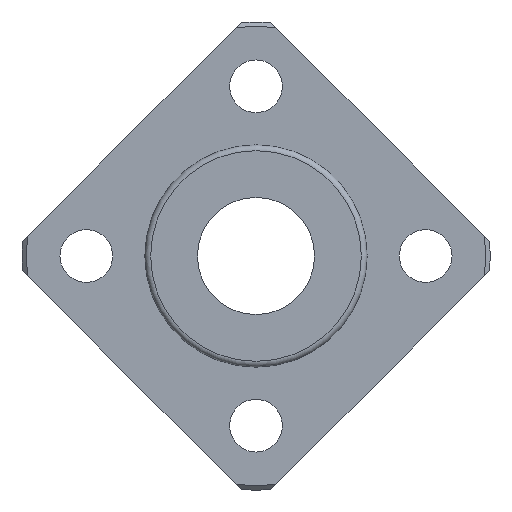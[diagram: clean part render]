
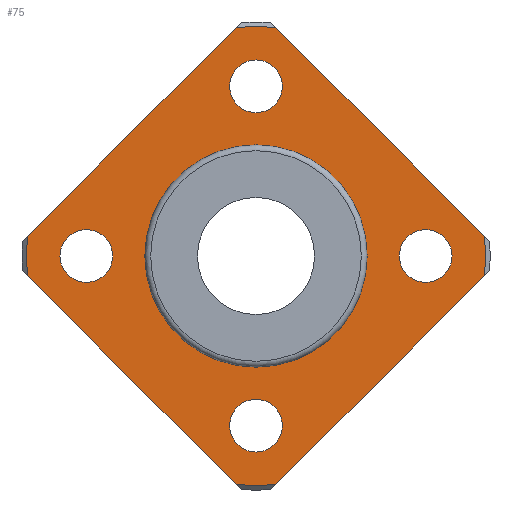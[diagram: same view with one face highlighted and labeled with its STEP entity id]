
A CAD part, left-side view. The second image highlights one B-rep face of the part: STEP entity #75.
In plain terms, the highlighted planar face has unit normal (-1, 0, 0).
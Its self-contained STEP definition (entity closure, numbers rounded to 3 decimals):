
#75=ADVANCED_FACE('',(#112,#113,#114,#115,#116,#117),#118,.T.);
#112=FACE_OUTER_BOUND('',#212,.T.);
#113=FACE_BOUND('',#213,.T.);
#114=FACE_BOUND('',#214,.T.);
#115=FACE_BOUND('',#215,.T.);
#116=FACE_BOUND('',#216,.T.);
#117=FACE_BOUND('',#217,.T.);
#118=PLANE('',#218);
#212=EDGE_LOOP('',(#312,#313,#314,#315,#316,#317,#318,#319));
#213=EDGE_LOOP('',(#320));
#214=EDGE_LOOP('',(#321));
#215=EDGE_LOOP('',(#322));
#216=EDGE_LOOP('',(#323));
#217=EDGE_LOOP('',(#324));
#218=AXIS2_PLACEMENT_3D('',#325,#326,#327);
#312=ORIENTED_EDGE('',*,*,#562,.T.);
#313=ORIENTED_EDGE('',*,*,#563,.T.);
#314=ORIENTED_EDGE('',*,*,#564,.T.);
#315=ORIENTED_EDGE('',*,*,#565,.T.);
#316=ORIENTED_EDGE('',*,*,#566,.T.);
#317=ORIENTED_EDGE('',*,*,#567,.T.);
#318=ORIENTED_EDGE('',*,*,#568,.T.);
#319=ORIENTED_EDGE('',*,*,#569,.T.);
#320=ORIENTED_EDGE('',*,*,#570,.F.);
#321=ORIENTED_EDGE('',*,*,#571,.T.);
#322=ORIENTED_EDGE('',*,*,#572,.T.);
#323=ORIENTED_EDGE('',*,*,#573,.T.);
#324=ORIENTED_EDGE('',*,*,#574,.T.);
#325=CARTESIAN_POINT('',(-6.0,14.425,0.0));
#326=DIRECTION('',(-1.0,0.0,0.));
#327=DIRECTION('',(0.,0.0,1.0));
#562=EDGE_CURVE('',#633,#634,#635,.T.);
#563=EDGE_CURVE('',#634,#636,#637,.T.);
#564=EDGE_CURVE('',#636,#638,#639,.T.);
#565=EDGE_CURVE('',#638,#640,#641,.T.);
#566=EDGE_CURVE('',#640,#642,#643,.T.);
#567=EDGE_CURVE('',#642,#644,#645,.T.);
#568=EDGE_CURVE('',#644,#646,#647,.T.);
#569=EDGE_CURVE('',#646,#633,#648,.T.);
#570=EDGE_CURVE('',#649,#649,#650,.T.);
#571=EDGE_CURVE('',#651,#651,#652,.T.);
#572=EDGE_CURVE('',#653,#653,#654,.T.);
#573=EDGE_CURVE('',#655,#655,#656,.T.);
#574=EDGE_CURVE('',#657,#657,#658,.T.);
#633=VERTEX_POINT('',#759);
#634=VERTEX_POINT('',#760);
#635=LINE('',#761,#762);
#636=VERTEX_POINT('',#763);
#637=CIRCLE('',#764,19.6);
#638=VERTEX_POINT('',#765);
#639=LINE('',#766,#767);
#640=VERTEX_POINT('',#768);
#641=CIRCLE('',#769,19.6);
#642=VERTEX_POINT('',#770);
#643=LINE('',#771,#772);
#644=VERTEX_POINT('',#773);
#645=CIRCLE('',#774,19.6);
#646=VERTEX_POINT('',#775);
#647=LINE('',#776,#777);
#648=CIRCLE('',#778,19.6);
#649=VERTEX_POINT('',#779);
#650=CIRCLE('',#780,9.25);
#651=VERTEX_POINT('',#781);
#652=CIRCLE('',#782,2.25);
#653=VERTEX_POINT('',#783);
#654=CIRCLE('',#784,2.25);
#655=VERTEX_POINT('',#785);
#656=CIRCLE('',#786,2.25);
#657=VERTEX_POINT('',#787);
#658=CIRCLE('',#788,2.25);
#759=CARTESIAN_POINT('',(-6.,-1.686,-19.527));
#760=CARTESIAN_POINT('',(-6.0,-19.527,-1.686));
#761=CARTESIAN_POINT('',(-6.0,-11.677,-9.536));
#762=VECTOR('',#1045,1.0);
#763=CARTESIAN_POINT('',(-6.0,-19.527,1.686));
#764=AXIS2_PLACEMENT_3D('',#1046,#1047,#1048);
#765=CARTESIAN_POINT('',(-6.0,-1.686,19.527));
#766=CARTESIAN_POINT('',(-6.0,-11.677,9.536));
#767=VECTOR('',#1049,1.0);
#768=CARTESIAN_POINT('',(-6.0,1.686,19.527));
#769=AXIS2_PLACEMENT_3D('',#1050,#1051,#1052);
#770=CARTESIAN_POINT('',(-6.0,19.527,1.686));
#771=CARTESIAN_POINT('',(-6.0,18.89,2.323));
#772=VECTOR('',#1053,1.0);
#773=CARTESIAN_POINT('',(-6.0,19.527,-1.686));
#774=AXIS2_PLACEMENT_3D('',#1054,#1055,#1056);
#775=CARTESIAN_POINT('',(-6.,1.686,-19.527));
#776=CARTESIAN_POINT('',(-6.0,18.89,-2.323));
#777=VECTOR('',#1057,1.0);
#778=AXIS2_PLACEMENT_3D('',#1058,#1059,#1060);
#779=CARTESIAN_POINT('',(-6.0,9.25,0.0));
#780=AXIS2_PLACEMENT_3D('',#1061,#1062,#1063);
#781=CARTESIAN_POINT('',(-6.0,14.5,2.25));
#782=AXIS2_PLACEMENT_3D('',#1064,#1065,#1066);
#783=CARTESIAN_POINT('',(-6.0,-14.5,2.25));
#784=AXIS2_PLACEMENT_3D('',#1067,#1068,#1069);
#785=CARTESIAN_POINT('',(-6.0,0.0,16.75));
#786=AXIS2_PLACEMENT_3D('',#1070,#1071,#1072);
#787=CARTESIAN_POINT('',(-6.,0.0,-12.25));
#788=AXIS2_PLACEMENT_3D('',#1073,#1074,#1075);
#1045=DIRECTION('',(0.,-0.707,0.707));
#1046=CARTESIAN_POINT('',(-6.0,0.0,0.0));
#1047=DIRECTION('',(-1.0,0.0,0.));
#1048=DIRECTION('',(0.0,1.0,0.0));
#1049=DIRECTION('',(0.,0.707,0.707));
#1050=CARTESIAN_POINT('',(-6.0,0.0,0.0));
#1051=DIRECTION('',(-1.0,0.0,0.));
#1052=DIRECTION('',(0.0,1.0,0.0));
#1053=DIRECTION('',(0.,0.707,-0.707));
#1054=CARTESIAN_POINT('',(-6.0,0.0,0.0));
#1055=DIRECTION('',(-1.0,0.0,0.));
#1056=DIRECTION('',(0.0,1.0,0.0));
#1057=DIRECTION('',(0.,-0.707,-0.707));
#1058=CARTESIAN_POINT('',(-6.0,0.0,0.0));
#1059=DIRECTION('',(-1.0,0.0,0.));
#1060=DIRECTION('',(0.0,1.0,0.0));
#1061=CARTESIAN_POINT('',(-6.0,0.0,0.0));
#1062=DIRECTION('',(-1.0,0.0,0.));
#1063=DIRECTION('',(0.0,1.0,0.0));
#1064=CARTESIAN_POINT('',(-6.0,14.5,0.0));
#1065=DIRECTION('',(1.0,0.0,0.));
#1066=DIRECTION('',(0.,0.0,-1.0));
#1067=CARTESIAN_POINT('',(-6.0,-14.5,0.0));
#1068=DIRECTION('',(1.0,0.0,0.));
#1069=DIRECTION('',(0.,0.0,-1.0));
#1070=CARTESIAN_POINT('',(-6.0,0.0,14.5));
#1071=DIRECTION('',(1.0,0.0,0.));
#1072=DIRECTION('',(0.,0.0,-1.0));
#1073=CARTESIAN_POINT('',(-6.,0.0,-14.5));
#1074=DIRECTION('',(1.0,0.0,0.));
#1075=DIRECTION('',(0.,0.0,-1.0));
